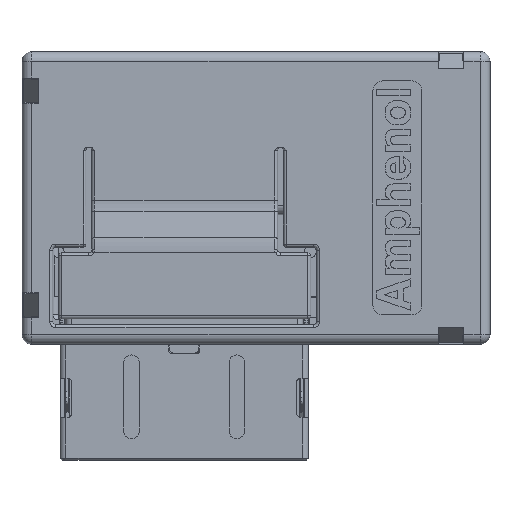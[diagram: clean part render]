
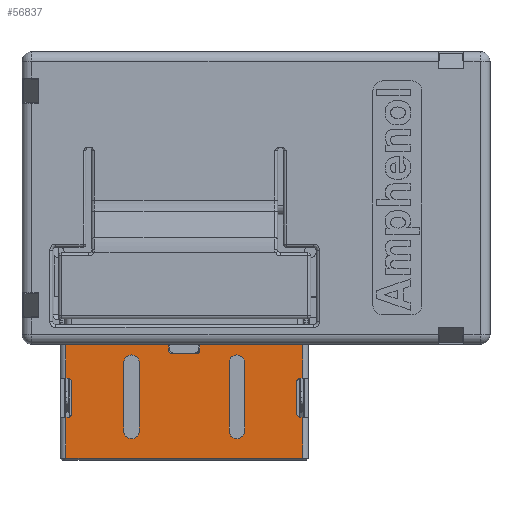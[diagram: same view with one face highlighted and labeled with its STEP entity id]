
A CAD part, front view. The second image highlights one B-rep face of the part: STEP entity #56837.
In plain terms, the highlighted planar face has unit normal (0, -1, 0) as drawn and (0, 1, 0) by its records, which use the part's own axes.
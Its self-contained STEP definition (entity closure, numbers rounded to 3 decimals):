
#50415=DIRECTION('',(0.,0.,-1.));
#50416=VECTOR('',#50415,2.1);
#50417=CARTESIAN_POINT('',(6.065,1.36,6.85));
#50418=LINE('',#50417,#50416);
#50459=DIRECTION('',(0.,0.,-1.));
#50460=VECTOR('',#50459,2.3);
#50461=CARTESIAN_POINT('',(6.065,1.36,11.15));
#50462=LINE('',#50461,#50460);
#50667=DIRECTION('',(1.,0.,0.));
#50668=VECTOR('',#50667,5.265);
#50669=CARTESIAN_POINT('',(-6.065,1.36,11.15));
#50670=LINE('',#50669,#50668);
#50689=DIRECTION('',(0.,0.,1.));
#50690=VECTOR('',#50689,2.3);
#50691=CARTESIAN_POINT('',(-6.065,1.36,8.85));
#50692=LINE('',#50691,#50690);
#50733=DIRECTION('',(0.,0.,1.));
#50734=VECTOR('',#50733,2.1);
#50735=CARTESIAN_POINT('',(-6.065,1.36,4.75));
#50736=LINE('',#50735,#50734);
#51903=DIRECTION('',(-1.,0.,0.));
#51904=VECTOR('',#51903,12.13);
#51905=CARTESIAN_POINT('',(6.065,1.36,4.75));
#51906=LINE('',#51905,#51904);
#51907=CARTESIAN_POINT('',(0.6,1.36,10.3));
#51908=DIRECTION('',(0.,1.,0.));
#51909=DIRECTION('',(1.,0.,0.));
#51910=AXIS2_PLACEMENT_3D('',#51907,#51908,#51909);
#51912=DIRECTION('',(-1.,0.,0.));
#51913=VECTOR('',#51912,1.2);
#51914=CARTESIAN_POINT('',(0.6,1.36,10.1));
#51915=LINE('',#51914,#51913);
#51916=CARTESIAN_POINT('',(-0.6,1.36,10.3));
#51917=DIRECTION('',(0.,1.,0.));
#51918=DIRECTION('',(0.,0.,-1.));
#51919=AXIS2_PLACEMENT_3D('',#51916,#51917,#51918);
#51921=DIRECTION('',(0.,0.,1.));
#51922=VECTOR('',#51921,0.85);
#51923=CARTESIAN_POINT('',(-0.8,1.36,10.3));
#51924=LINE('',#51923,#51922);
#51925=CARTESIAN_POINT('',(-5.965,1.36,8.65));
#51926=DIRECTION('',(0.,1.,0.));
#51927=DIRECTION('',(0.,0.,1.));
#51928=AXIS2_PLACEMENT_3D('',#51925,#51926,#51927);
#51930=DIRECTION('',(0.,0.,-1.));
#51931=VECTOR('',#51930,1.6);
#51932=CARTESIAN_POINT('',(-5.765,1.36,8.65));
#51933=LINE('',#51932,#51931);
#51934=CARTESIAN_POINT('',(-5.965,1.36,7.05));
#51935=DIRECTION('',(0.,1.,0.));
#51936=DIRECTION('',(1.,0.,0.));
#51937=AXIS2_PLACEMENT_3D('',#51934,#51935,#51936);
#51939=DIRECTION('',(-1.,0.,0.));
#51940=VECTOR('',#51939,0.1);
#51941=CARTESIAN_POINT('',(-5.965,1.36,6.85));
#51942=LINE('',#51941,#51940);
#51943=CARTESIAN_POINT('',(5.965,1.36,7.05));
#51944=DIRECTION('',(0.,1.,0.));
#51945=DIRECTION('',(0.,0.,-1.));
#51946=AXIS2_PLACEMENT_3D('',#51943,#51944,#51945);
#51948=DIRECTION('',(0.,0.,1.));
#51949=VECTOR('',#51948,1.6);
#51950=CARTESIAN_POINT('',(5.765,1.36,7.05));
#51951=LINE('',#51950,#51949);
#51952=CARTESIAN_POINT('',(5.965,1.36,8.65));
#51953=DIRECTION('',(0.,1.,0.));
#51954=DIRECTION('',(-1.,0.,0.));
#51955=AXIS2_PLACEMENT_3D('',#51952,#51953,#51954);
#51957=DIRECTION('',(1.,0.,0.));
#51958=VECTOR('',#51957,0.1);
#51959=CARTESIAN_POINT('',(5.965,1.36,8.85));
#51960=LINE('',#51959,#51958);
#51961=CARTESIAN_POINT('',(2.7,1.36,9.65));
#51962=DIRECTION('',(0.,1.,0.));
#51963=DIRECTION('',(-1.,0.,0.));
#51964=AXIS2_PLACEMENT_3D('',#51961,#51962,#51963);
#51966=CARTESIAN_POINT('',(2.7,1.36,6.15));
#51967=DIRECTION('',(0.,1.,0.));
#51968=DIRECTION('',(1.,0.,0.));
#51969=AXIS2_PLACEMENT_3D('',#51966,#51967,#51968);
#51971=CARTESIAN_POINT('',(-2.7,1.36,6.15));
#51972=DIRECTION('',(0.,1.,0.));
#51973=DIRECTION('',(1.,0.,0.));
#51974=AXIS2_PLACEMENT_3D('',#51971,#51972,#51973);
#51976=CARTESIAN_POINT('',(-2.7,1.36,9.65));
#51977=DIRECTION('',(0.,1.,0.));
#51978=DIRECTION('',(-1.,0.,0.));
#51979=AXIS2_PLACEMENT_3D('',#51976,#51977,#51978);
#51981=DIRECTION('',(0.,0.,1.));
#51982=VECTOR('',#51981,0.85);
#51983=CARTESIAN_POINT('',(0.8,1.36,10.3));
#51984=LINE('',#51983,#51982);
#51997=DIRECTION('',(1.,0.,0.));
#51998=VECTOR('',#51997,5.265);
#51999=CARTESIAN_POINT('',(0.8,1.36,11.15));
#52000=LINE('',#51999,#51998);
#52001=DIRECTION('',(-1.,0.,0.));
#52002=VECTOR('',#52001,0.1);
#52003=CARTESIAN_POINT('',(-5.965,1.36,8.85));
#52004=LINE('',#52003,#52002);
#52033=DIRECTION('',(1.,0.,0.));
#52034=VECTOR('',#52033,0.1);
#52035=CARTESIAN_POINT('',(5.965,1.36,6.85));
#52036=LINE('',#52035,#52034);
#52065=DIRECTION('',(0.,0.,-1.));
#52066=VECTOR('',#52065,3.5);
#52067=CARTESIAN_POINT('',(2.3,1.36,9.65));
#52068=LINE('',#52067,#52066);
#52077=DIRECTION('',(0.,0.,1.));
#52078=VECTOR('',#52077,3.5);
#52079=CARTESIAN_POINT('',(3.1,1.36,6.15));
#52080=LINE('',#52079,#52078);
#52115=DIRECTION('',(0.,0.,1.));
#52116=VECTOR('',#52115,3.5);
#52117=CARTESIAN_POINT('',(-2.3,1.36,6.15));
#52118=LINE('',#52117,#52116);
#52127=DIRECTION('',(0.,0.,-1.));
#52128=VECTOR('',#52127,3.5);
#52129=CARTESIAN_POINT('',(-3.1,1.36,9.65));
#52130=LINE('',#52129,#52128);
#52654=CARTESIAN_POINT('',(-6.065,1.36,6.85));
#52655=VERTEX_POINT('',#52654);
#52656=CARTESIAN_POINT('',(-6.065,1.36,4.75));
#52657=VERTEX_POINT('',#52656);
#52658=CARTESIAN_POINT('',(-6.065,1.36,11.15));
#52659=VERTEX_POINT('',#52658);
#52660=CARTESIAN_POINT('',(-6.065,1.36,8.85));
#52661=VERTEX_POINT('',#52660);
#52888=CARTESIAN_POINT('',(6.065,1.36,4.75));
#52889=VERTEX_POINT('',#52888);
#52908=CARTESIAN_POINT('',(6.065,1.36,6.85));
#52910=VERTEX_POINT('',#52908);
#52912=CARTESIAN_POINT('',(6.065,1.36,11.15));
#52914=VERTEX_POINT('',#52912);
#52916=CARTESIAN_POINT('',(6.065,1.36,8.85));
#52917=VERTEX_POINT('',#52916);
#52920=CARTESIAN_POINT('',(0.8,1.36,10.3));
#52921=CARTESIAN_POINT('',(0.8,1.36,11.15));
#52922=VERTEX_POINT('',#52920);
#52923=VERTEX_POINT('',#52921);
#52924=CARTESIAN_POINT('',(0.6,1.36,10.1));
#52925=VERTEX_POINT('',#52924);
#52926=CARTESIAN_POINT('',(-0.6,1.36,10.1));
#52927=VERTEX_POINT('',#52926);
#52928=CARTESIAN_POINT('',(-0.8,1.36,10.3));
#52929=VERTEX_POINT('',#52928);
#52930=CARTESIAN_POINT('',(-0.8,1.36,11.15));
#52931=VERTEX_POINT('',#52930);
#52932=CARTESIAN_POINT('',(-5.965,1.36,8.85));
#52933=VERTEX_POINT('',#52932);
#52934=CARTESIAN_POINT('',(-5.765,1.36,8.65));
#52935=VERTEX_POINT('',#52934);
#52936=CARTESIAN_POINT('',(-5.765,1.36,7.05));
#52937=VERTEX_POINT('',#52936);
#52938=CARTESIAN_POINT('',(-5.965,1.36,6.85));
#52939=VERTEX_POINT('',#52938);
#52940=CARTESIAN_POINT('',(5.965,1.36,6.85));
#52941=VERTEX_POINT('',#52940);
#52942=CARTESIAN_POINT('',(5.765,1.36,7.05));
#52943=VERTEX_POINT('',#52942);
#52944=CARTESIAN_POINT('',(5.765,1.36,8.65));
#52945=VERTEX_POINT('',#52944);
#52946=CARTESIAN_POINT('',(5.965,1.36,8.85));
#52947=VERTEX_POINT('',#52946);
#52948=CARTESIAN_POINT('',(2.3,1.36,9.65));
#52949=CARTESIAN_POINT('',(2.3,1.36,6.15));
#52950=VERTEX_POINT('',#52948);
#52951=VERTEX_POINT('',#52949);
#52952=CARTESIAN_POINT('',(3.1,1.36,9.65));
#52953=VERTEX_POINT('',#52952);
#52954=CARTESIAN_POINT('',(3.1,1.36,6.15));
#52955=VERTEX_POINT('',#52954);
#52956=CARTESIAN_POINT('',(-2.3,1.36,6.15));
#52957=CARTESIAN_POINT('',(-3.1,1.36,6.15));
#52958=VERTEX_POINT('',#52956);
#52959=VERTEX_POINT('',#52957);
#52960=CARTESIAN_POINT('',(-3.1,1.36,9.65));
#52961=VERTEX_POINT('',#52960);
#52962=CARTESIAN_POINT('',(-2.3,1.36,9.65));
#52963=VERTEX_POINT('',#52962);
#56775=CARTESIAN_POINT('',(6.065,1.36,4.65));
#56776=DIRECTION('',(0.,1.,0.));
#56777=DIRECTION('',(-1.,0.,0.));
#56778=AXIS2_PLACEMENT_3D('',#56775,#56776,#56777);
#56779=PLANE('',#56778);
#56781=ORIENTED_EDGE('',*,*,#56780,.F.);
#56783=ORIENTED_EDGE('',*,*,#56782,.T.);
#56784=ORIENTED_EDGE('',*,*,#54917,.T.);
#56785=ORIENTED_EDGE('',*,*,#54932,.T.);
#56786=ORIENTED_EDGE('',*,*,#54948,.T.);
#56787=ORIENTED_EDGE('',*,*,#54962,.F.);
#56788=ORIENTED_EDGE('',*,*,#54991,.F.);
#56790=ORIENTED_EDGE('',*,*,#56789,.F.);
#56792=ORIENTED_EDGE('',*,*,#56791,.T.);
#56794=ORIENTED_EDGE('',*,*,#56793,.T.);
#56796=ORIENTED_EDGE('',*,*,#56795,.T.);
#56798=ORIENTED_EDGE('',*,*,#56797,.T.);
#56799=ORIENTED_EDGE('',*,*,#55049,.F.);
#56800=ORIENTED_EDGE('',*,*,#56769,.F.);
#56801=ORIENTED_EDGE('',*,*,#54631,.F.);
#56803=ORIENTED_EDGE('',*,*,#56802,.F.);
#56805=ORIENTED_EDGE('',*,*,#56804,.T.);
#56807=ORIENTED_EDGE('',*,*,#56806,.T.);
#56809=ORIENTED_EDGE('',*,*,#56808,.T.);
#56811=ORIENTED_EDGE('',*,*,#56810,.T.);
#56812=ORIENTED_EDGE('',*,*,#54688,.F.);
#56814=ORIENTED_EDGE('',*,*,#56813,.F.);
#56815=EDGE_LOOP('',(#56781,#56783,#56784,#56785,#56786,#56787,#56788,#56790,
#56792,#56794,#56796,#56798,#56799,#56800,#56801,#56803,#56805,#56807,#56809,
#56811,#56812,#56814));
#56816=FACE_OUTER_BOUND('',#56815,.F.);
#56818=ORIENTED_EDGE('',*,*,#56817,.F.);
#56820=ORIENTED_EDGE('',*,*,#56819,.T.);
#56822=ORIENTED_EDGE('',*,*,#56821,.F.);
#56824=ORIENTED_EDGE('',*,*,#56823,.T.);
#56825=EDGE_LOOP('',(#56818,#56820,#56822,#56824));
#56826=FACE_BOUND('',#56825,.F.);
#56828=ORIENTED_EDGE('',*,*,#56827,.T.);
#56830=ORIENTED_EDGE('',*,*,#56829,.F.);
#56832=ORIENTED_EDGE('',*,*,#56831,.T.);
#56834=ORIENTED_EDGE('',*,*,#56833,.F.);
#56835=EDGE_LOOP('',(#56828,#56830,#56832,#56834));
#56836=FACE_BOUND('',#56835,.F.);
#56837=ADVANCED_FACE('',(#56816,#56826,#56836),#56779,.T.);
#51911=CIRCLE('',#51910,0.2);
#51920=CIRCLE('',#51919,0.2);
#51929=CIRCLE('',#51928,0.2);
#51938=CIRCLE('',#51937,0.2);
#51947=CIRCLE('',#51946,0.2);
#51956=CIRCLE('',#51955,0.2);
#51965=CIRCLE('',#51964,0.4);
#51970=CIRCLE('',#51969,0.4);
#51975=CIRCLE('',#51974,0.4);
#51980=CIRCLE('',#51979,0.4);
#54631=EDGE_CURVE('',#52910,#52889,#50418,.T.);
#54688=EDGE_CURVE('',#52914,#52917,#50462,.T.);
#54917=EDGE_CURVE('',#52925,#52927,#51915,.T.);
#54932=EDGE_CURVE('',#52927,#52929,#51920,.T.);
#54948=EDGE_CURVE('',#52929,#52931,#51924,.T.);
#54962=EDGE_CURVE('',#52659,#52931,#50670,.T.);
#54991=EDGE_CURVE('',#52661,#52659,#50692,.T.);
#55049=EDGE_CURVE('',#52657,#52655,#50736,.T.);
#56769=EDGE_CURVE('',#52889,#52657,#51906,.T.);
#56780=EDGE_CURVE('',#52922,#52923,#51984,.T.);
#56782=EDGE_CURVE('',#52922,#52925,#51911,.T.);
#56789=EDGE_CURVE('',#52933,#52661,#52004,.T.);
#56791=EDGE_CURVE('',#52933,#52935,#51929,.T.);
#56793=EDGE_CURVE('',#52935,#52937,#51933,.T.);
#56795=EDGE_CURVE('',#52937,#52939,#51938,.T.);
#56797=EDGE_CURVE('',#52939,#52655,#51942,.T.);
#56802=EDGE_CURVE('',#52941,#52910,#52036,.T.);
#56804=EDGE_CURVE('',#52941,#52943,#51947,.T.);
#56806=EDGE_CURVE('',#52943,#52945,#51951,.T.);
#56808=EDGE_CURVE('',#52945,#52947,#51956,.T.);
#56810=EDGE_CURVE('',#52947,#52917,#51960,.T.);
#56813=EDGE_CURVE('',#52923,#52914,#52000,.T.);
#56817=EDGE_CURVE('',#52950,#52951,#52068,.T.);
#56819=EDGE_CURVE('',#52950,#52953,#51965,.T.);
#56821=EDGE_CURVE('',#52955,#52953,#52080,.T.);
#56823=EDGE_CURVE('',#52955,#52951,#51970,.T.);
#56827=EDGE_CURVE('',#52958,#52959,#51975,.T.);
#56829=EDGE_CURVE('',#52961,#52959,#52130,.T.);
#56831=EDGE_CURVE('',#52961,#52963,#51980,.T.);
#56833=EDGE_CURVE('',#52958,#52963,#52118,.T.);
